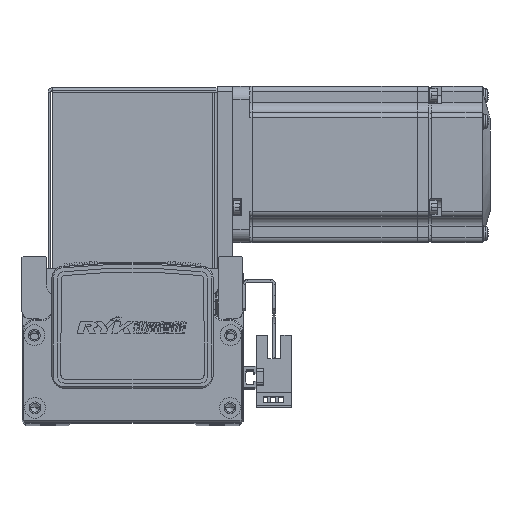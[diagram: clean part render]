
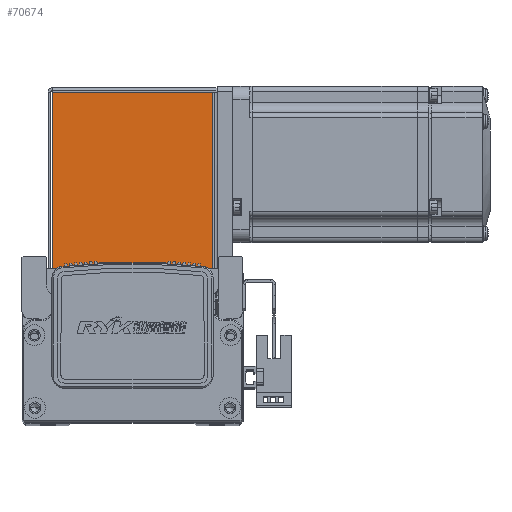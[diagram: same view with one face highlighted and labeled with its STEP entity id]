
A CAD part, top view. The second image highlights one B-rep face of the part: STEP entity #70674.
In plain terms, the highlighted planar face has unit normal (0, 0, 1) as drawn and (0, 0, -1) by its records, which use the part's own axes.
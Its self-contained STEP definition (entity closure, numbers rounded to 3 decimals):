
#392 = CARTESIAN_POINT ( 'NONE',  ( 0., 68.5, -35. ) ) ;
#393 = DIRECTION ( 'NONE',  ( 1., 0., 0. ) ) ;
#612 = DIRECTION ( 'NONE',  ( 0., 1., 0. ) ) ;
#617 = CARTESIAN_POINT ( 'NONE',  ( -30.793, 0., -35. ) ) ;
#694 = DIRECTION ( 'NONE',  ( 1., 0., 0. ) ) ;
#701 = CARTESIAN_POINT ( 'NONE',  ( 30.763, 68.5, -35. ) ) ;
#727 = DIRECTION ( 'NONE',  ( 0., -1., 0. ) ) ;
#731 = CARTESIAN_POINT ( 'NONE',  ( 32.5, 0.737, -35. ) ) ;
#1059 = LINE ( 'NONE', #617, #1089 ) ;
#1089 = VECTOR ( 'NONE', #612, 1000. ) ;
#1122 = VECTOR ( 'NONE', #727, 1000. ) ;
#1125 = LINE ( 'NONE', #701, #1122 ) ;
#1135 = VECTOR ( 'NONE', #694, 1000. ) ;
#1163 = LINE ( 'NONE', #731, #1135 ) ;
#12082 = EDGE_LOOP ( 'NONE', ( #29009, #28963, #29013, #29022 ) ) ;
#15036 = AXIS2_PLACEMENT_3D ( 'NONE', #49889, #49880, #49869 ) ;
#22188 = EDGE_CURVE ( 'NONE', #29753, #29769, #72332, .T. ) ;
#22260 = EDGE_CURVE ( 'NONE', #29841, #29753, #1059, .T. ) ;
#22284 = EDGE_CURVE ( 'NONE', #29769, #29870, #1125, .T. ) ;
#22297 = EDGE_CURVE ( 'NONE', #29841, #29870, #1163, .T. ) ;
#28963 = ORIENTED_EDGE ( 'NONE', *, *, #22297, .F. ) ;
#29009 = ORIENTED_EDGE ( 'NONE', *, *, #22284, .T. ) ;
#29013 = ORIENTED_EDGE ( 'NONE', *, *, #22260, .T. ) ;
#29022 = ORIENTED_EDGE ( 'NONE', *, *, #22188, .T. ) ;
#29753 = VERTEX_POINT ( 'NONE', #35839 ) ;
#29769 = VERTEX_POINT ( 'NONE', #35847 ) ;
#29841 = VERTEX_POINT ( 'NONE', #35935 ) ;
#29870 = VERTEX_POINT ( 'NONE', #35993 ) ;
#35839 = CARTESIAN_POINT ( 'NONE',  ( -30.793, 68.5, -35. ) ) ;
#35847 = CARTESIAN_POINT ( 'NONE',  ( 30.763, 68.5, -35. ) ) ;
#35935 = CARTESIAN_POINT ( 'NONE',  ( -30.793, 0.737, -35. ) ) ;
#35993 = CARTESIAN_POINT ( 'NONE',  ( 30.763, 0.737, -35. ) ) ;
#47727 = FACE_OUTER_BOUND ( 'NONE', #12082, .T. ) ;
#49869 = DIRECTION ( 'NONE',  ( 0., -1., 0. ) ) ;
#49876 = PLANE ( 'NONE',  #15036 ) ;
#49880 = DIRECTION ( 'NONE',  ( 0., 0., 1. ) ) ;
#49889 = CARTESIAN_POINT ( 'NONE',  ( 0., 0., -35. ) ) ;
#70674 = ADVANCED_FACE ( 'NONE', ( #47727 ), #49876, .F. ) ;
#72290 = VECTOR ( 'NONE', #393, 1000. ) ;
#72332 = LINE ( 'NONE', #392, #72290 ) ;
